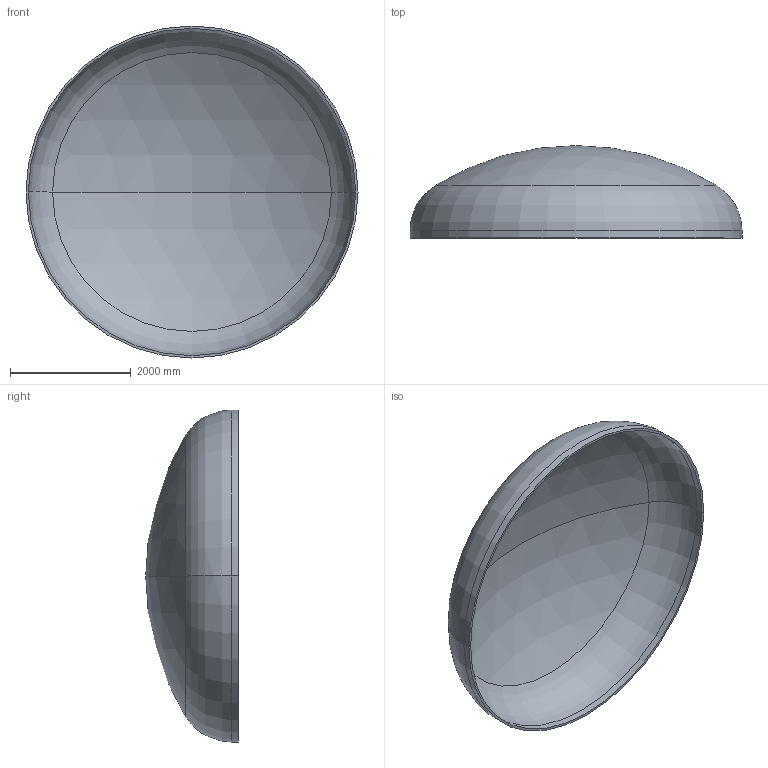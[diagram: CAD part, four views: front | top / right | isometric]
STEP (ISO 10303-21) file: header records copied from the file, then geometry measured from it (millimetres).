
FILE_DESCRIPTION (( 'STEP AP203' ), '1' );
FILE_NAME ('DIN 28013 Korbbogenform_-_Boden DIN 28013 - 5500 x 120 - I - s=39.step', '2016-07-04T10:34:04', ( '' ), ( '' ), 'SwSTEP 2.0', 'SolidWorks 2013', '' );
FILE_SCHEMA (( 'CONFIG_CONTROL_DESIGN' ));
Length unit declared in the file: millimetre
Products named in the file (1): DIN 28013 Korbbogenform_-_Boden DIN 28013 - 5500 x 120 - I - s=39
Bounding box: 5500 x 1533.1 x 5500 mm (x, y, z)
Volume: 1351035406.8 mm3; surface area: 69956119.2 mm2
Topology: 1 solids, 1 shells, 13 faces, 24 edges, 14 vertices
Faces by surface type: torus 4, cylinder 4, sphere 4, plane 1
Entity records: 407 total; most frequent: DIRECTION 72, CARTESIAN_POINT 52, ORIENTED_EDGE 48, AXIS2_PLACEMENT_3D 34, EDGE_CURVE 24, CIRCLE 20, VERTEX_POINT 14, EDGE_LOOP 14
